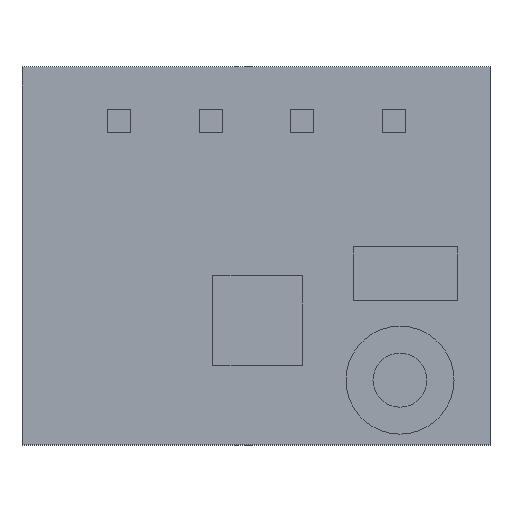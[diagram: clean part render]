
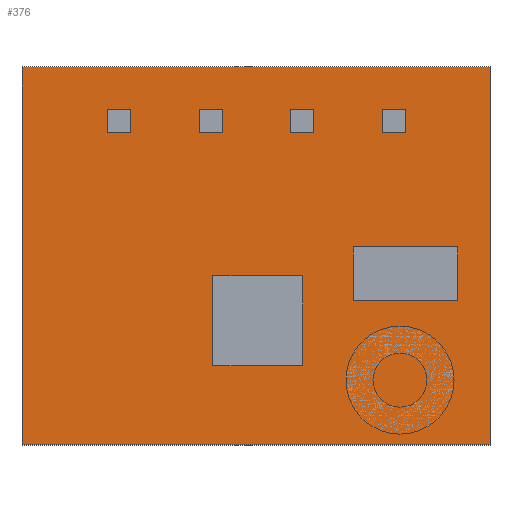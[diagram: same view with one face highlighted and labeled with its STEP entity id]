
A CAD part, top view. The second image highlights one B-rep face of the part: STEP entity #376.
In plain terms, the highlighted planar face has unit normal (0, 0, 1).
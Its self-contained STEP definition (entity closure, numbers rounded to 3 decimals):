
#62 = VERTEX_POINT('',#63);
#63 = CARTESIAN_POINT('',(-2.7,-9.,12.6));
#70 = PLANE('',#71);
#71 = AXIS2_PLACEMENT_3D('',#72,#73,#74);
#72 = CARTESIAN_POINT('',(-2.7,-9.,11.));
#73 = DIRECTION('',(1.,0.,0.));
#74 = DIRECTION('',(0.,0.,1.));
#82 = PLANE('',#83);
#83 = AXIS2_PLACEMENT_3D('',#84,#85,#86);
#84 = CARTESIAN_POINT('',(-2.7,-9.,11.));
#85 = DIRECTION('',(0.,1.,0.));
#86 = DIRECTION('',(0.,0.,1.));
#123 = VERTEX_POINT('',#124);
#124 = CARTESIAN_POINT('',(-2.7,1.5,12.6));
#138 = PLANE('',#139);
#139 = AXIS2_PLACEMENT_3D('',#140,#141,#142);
#140 = CARTESIAN_POINT('',(-2.7,1.5,11.));
#141 = DIRECTION('',(0.,1.,0.));
#142 = DIRECTION('',(0.,0.,1.));
#150 = EDGE_CURVE('',#62,#123,#151,.T.);
#151 = SURFACE_CURVE('',#152,(#156,#163),.PCURVE_S1.);
#152 = LINE('',#153,#154);
#153 = CARTESIAN_POINT('',(-2.7,-9.,12.6));
#154 = VECTOR('',#155,1.);
#155 = DIRECTION('',(0.,1.,0.));
#156 = PCURVE('',#70,#157);
#157 = DEFINITIONAL_REPRESENTATION('',(#158),#162);
#158 = LINE('',#159,#160);
#159 = CARTESIAN_POINT('',(1.6,0.));
#160 = VECTOR('',#161,1.);
#161 = DIRECTION('',(0.,-1.));
#162 = ( GEOMETRIC_REPRESENTATION_CONTEXT(2) 
PARAMETRIC_REPRESENTATION_CONTEXT() REPRESENTATION_CONTEXT('2D SPACE',''
  ) );
#163 = PCURVE('',#164,#169);
#164 = PLANE('',#165);
#165 = AXIS2_PLACEMENT_3D('',#166,#167,#168);
#166 = CARTESIAN_POINT('',(-2.7,-9.,12.6));
#167 = DIRECTION('',(0.,0.,1.));
#168 = DIRECTION('',(1.,0.,0.));
#169 = DEFINITIONAL_REPRESENTATION('',(#170),#174);
#170 = LINE('',#171,#172);
#171 = CARTESIAN_POINT('',(0.,0.));
#172 = VECTOR('',#173,1.);
#173 = DIRECTION('',(0.,1.));
#174 = ( GEOMETRIC_REPRESENTATION_CONTEXT(2) 
PARAMETRIC_REPRESENTATION_CONTEXT() REPRESENTATION_CONTEXT('2D SPACE',''
  ) );
#182 = VERTEX_POINT('',#183);
#183 = CARTESIAN_POINT('',(10.3,-9.,12.6));
#190 = PLANE('',#191);
#191 = AXIS2_PLACEMENT_3D('',#192,#193,#194);
#192 = CARTESIAN_POINT('',(10.3,-9.,11.));
#193 = DIRECTION('',(1.,0.,0.));
#194 = DIRECTION('',(0.,0.,1.));
#233 = VERTEX_POINT('',#234);
#234 = CARTESIAN_POINT('',(10.3,1.5,12.6));
#255 = EDGE_CURVE('',#182,#233,#256,.T.);
#256 = SURFACE_CURVE('',#257,(#261,#268),.PCURVE_S1.);
#257 = LINE('',#258,#259);
#258 = CARTESIAN_POINT('',(10.3,-9.,12.6));
#259 = VECTOR('',#260,1.);
#260 = DIRECTION('',(0.,1.,0.));
#261 = PCURVE('',#190,#262);
#262 = DEFINITIONAL_REPRESENTATION('',(#263),#267);
#263 = LINE('',#264,#265);
#264 = CARTESIAN_POINT('',(1.6,0.));
#265 = VECTOR('',#266,1.);
#266 = DIRECTION('',(0.,-1.));
#267 = ( GEOMETRIC_REPRESENTATION_CONTEXT(2) 
PARAMETRIC_REPRESENTATION_CONTEXT() REPRESENTATION_CONTEXT('2D SPACE',''
  ) );
#268 = PCURVE('',#164,#269);
#269 = DEFINITIONAL_REPRESENTATION('',(#270),#274);
#270 = LINE('',#271,#272);
#271 = CARTESIAN_POINT('',(13.,0.));
#272 = VECTOR('',#273,1.);
#273 = DIRECTION('',(0.,1.));
#274 = ( GEOMETRIC_REPRESENTATION_CONTEXT(2) 
PARAMETRIC_REPRESENTATION_CONTEXT() REPRESENTATION_CONTEXT('2D SPACE',''
  ) );
#301 = EDGE_CURVE('',#62,#182,#302,.T.);
#302 = SURFACE_CURVE('',#303,(#307,#314),.PCURVE_S1.);
#303 = LINE('',#304,#305);
#304 = CARTESIAN_POINT('',(-2.7,-9.,12.6));
#305 = VECTOR('',#306,1.);
#306 = DIRECTION('',(1.,0.,0.));
#307 = PCURVE('',#82,#308);
#308 = DEFINITIONAL_REPRESENTATION('',(#309),#313);
#309 = LINE('',#310,#311);
#310 = CARTESIAN_POINT('',(1.6,0.));
#311 = VECTOR('',#312,1.);
#312 = DIRECTION('',(0.,1.));
#313 = ( GEOMETRIC_REPRESENTATION_CONTEXT(2) 
PARAMETRIC_REPRESENTATION_CONTEXT() REPRESENTATION_CONTEXT('2D SPACE',''
  ) );
#314 = PCURVE('',#164,#315);
#315 = DEFINITIONAL_REPRESENTATION('',(#316),#320);
#316 = LINE('',#317,#318);
#317 = CARTESIAN_POINT('',(0.,0.));
#318 = VECTOR('',#319,1.);
#319 = DIRECTION('',(1.,0.));
#320 = ( GEOMETRIC_REPRESENTATION_CONTEXT(2) 
PARAMETRIC_REPRESENTATION_CONTEXT() REPRESENTATION_CONTEXT('2D SPACE',''
  ) );
#348 = EDGE_CURVE('',#123,#233,#349,.T.);
#349 = SURFACE_CURVE('',#350,(#354,#361),.PCURVE_S1.);
#350 = LINE('',#351,#352);
#351 = CARTESIAN_POINT('',(-2.7,1.5,12.6));
#352 = VECTOR('',#353,1.);
#353 = DIRECTION('',(1.,0.,0.));
#354 = PCURVE('',#138,#355);
#355 = DEFINITIONAL_REPRESENTATION('',(#356),#360);
#356 = LINE('',#357,#358);
#357 = CARTESIAN_POINT('',(1.6,0.));
#358 = VECTOR('',#359,1.);
#359 = DIRECTION('',(0.,1.));
#360 = ( GEOMETRIC_REPRESENTATION_CONTEXT(2) 
PARAMETRIC_REPRESENTATION_CONTEXT() REPRESENTATION_CONTEXT('2D SPACE',''
  ) );
#361 = PCURVE('',#164,#362);
#362 = DEFINITIONAL_REPRESENTATION('',(#363),#367);
#363 = LINE('',#364,#365);
#364 = CARTESIAN_POINT('',(0.,10.5));
#365 = VECTOR('',#366,1.);
#366 = DIRECTION('',(1.,0.));
#367 = ( GEOMETRIC_REPRESENTATION_CONTEXT(2) 
PARAMETRIC_REPRESENTATION_CONTEXT() REPRESENTATION_CONTEXT('2D SPACE',''
  ) );
#376 = ADVANCED_FACE('',(#377),#164,.T.);
#377 = FACE_BOUND('',#378,.T.);
#378 = EDGE_LOOP('',(#379,#380,#381,#382));
#379 = ORIENTED_EDGE('',*,*,#150,.F.);
#380 = ORIENTED_EDGE('',*,*,#301,.T.);
#381 = ORIENTED_EDGE('',*,*,#255,.T.);
#382 = ORIENTED_EDGE('',*,*,#348,.F.);
